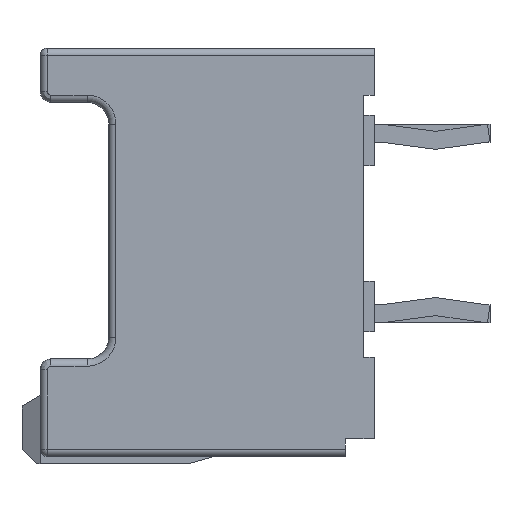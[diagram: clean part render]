
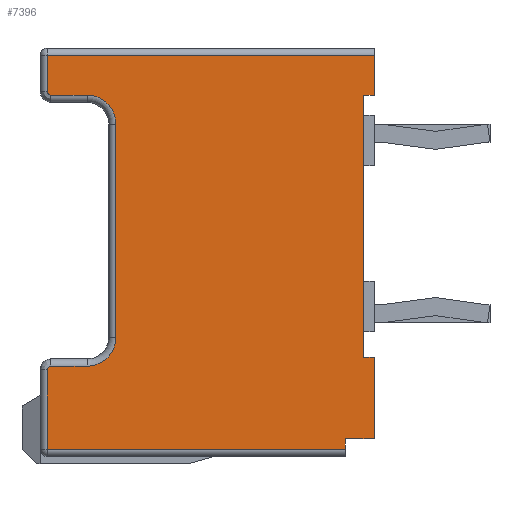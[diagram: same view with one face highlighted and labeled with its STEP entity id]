
A CAD part, left-side view. The second image highlights one B-rep face of the part: STEP entity #7396.
In plain terms, the highlighted planar face has unit normal (-1, 0, 0).
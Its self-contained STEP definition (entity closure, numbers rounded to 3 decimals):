
#1=DIRECTION('',(0.,0.,-1.));
#2=VECTOR('',#1,1.1);
#3=CARTESIAN_POINT('',(-10.7,0.,-0.2));
#4=LINE('',#3,#2);
#5=DIRECTION('',(0.,1.,0.));
#6=VECTOR('',#5,0.3);
#7=CARTESIAN_POINT('',(-10.7,0.,-1.3));
#8=LINE('',#7,#6);
#9=DIRECTION('',(0.,0.,1.));
#10=VECTOR('',#9,7.25);
#11=CARTESIAN_POINT('',(-10.7,0.3,-8.55));
#12=LINE('',#11,#10);
#13=DIRECTION('',(0.,1.,0.));
#14=VECTOR('',#13,0.3);
#15=CARTESIAN_POINT('',(-10.7,0.,-8.55));
#16=LINE('',#15,#14);
#17=DIRECTION('',(0.,0.,-1.));
#18=VECTOR('',#17,2.25);
#19=CARTESIAN_POINT('',(-10.7,0.,-8.55));
#20=LINE('',#19,#18);
#21=DIRECTION('',(0.,1.,0.));
#22=VECTOR('',#21,0.8);
#23=CARTESIAN_POINT('',(-10.7,0.,-10.8));
#24=LINE('',#23,#22);
#25=DIRECTION('',(0.,0.,-1.));
#26=VECTOR('',#25,0.3);
#27=CARTESIAN_POINT('',(-10.7,0.8,-10.8));
#28=LINE('',#27,#26);
#29=DIRECTION('',(0.,0.,-1.));
#30=VECTOR('',#29,1.);
#31=CARTESIAN_POINT('',(-10.7,9.05,-0.2));
#32=LINE('',#31,#30);
#42=CARTESIAN_POINT('',(-10.7,8.95,-1.2));
#43=DIRECTION('',(-1.,0.,0.));
#44=DIRECTION('',(0.,1.,0.));
#45=AXIS2_PLACEMENT_3D('',#42,#43,#44);
#57=DIRECTION('',(0.,-1.,0.));
#58=VECTOR('',#57,1.);
#59=CARTESIAN_POINT('',(-10.7,8.95,-1.3));
#60=LINE('',#59,#58);
#70=CARTESIAN_POINT('',(-10.7,7.95,-2.1));
#71=DIRECTION('',(1.,0.,0.));
#72=DIRECTION('',(0.,0.,1.));
#73=AXIS2_PLACEMENT_3D('',#70,#71,#72);
#85=DIRECTION('',(0.,0.,-1.));
#86=VECTOR('',#85,5.9);
#87=CARTESIAN_POINT('',(-10.7,7.15,-2.1));
#88=LINE('',#87,#86);
#98=CARTESIAN_POINT('',(-10.7,7.95,-8.));
#99=DIRECTION('',(1.,0.,0.));
#100=DIRECTION('',(0.,-1.,0.));
#101=AXIS2_PLACEMENT_3D('',#98,#99,#100);
#113=DIRECTION('',(0.,1.,0.));
#114=VECTOR('',#113,1.);
#115=CARTESIAN_POINT('',(-10.7,7.95,-8.8));
#116=LINE('',#115,#114);
#126=CARTESIAN_POINT('',(-10.7,8.95,-8.9));
#127=DIRECTION('',(-1.,0.,0.));
#128=DIRECTION('',(0.,0.,1.));
#129=AXIS2_PLACEMENT_3D('',#126,#127,#128);
#141=DIRECTION('',(0.,0.,-1.));
#142=VECTOR('',#141,2.2);
#143=CARTESIAN_POINT('',(-10.7,9.05,-8.9));
#144=LINE('',#143,#142);
#159=DIRECTION('',(0.,-1.,0.));
#160=VECTOR('',#159,8.25);
#161=CARTESIAN_POINT('',(-10.7,9.05,-11.1));
#162=LINE('',#161,#160);
#3087=DIRECTION('',(0.,1.,0.));
#3088=VECTOR('',#3087,9.05);
#3089=CARTESIAN_POINT('',(-10.7,0.,-0.2));
#3090=LINE('',#3089,#3088);
#6009=CARTESIAN_POINT('',(-10.7,0.,-8.55));
#6010=CARTESIAN_POINT('',(-10.7,0.3,-8.55));
#6011=VERTEX_POINT('',#6009);
#6012=VERTEX_POINT('',#6010);
#6013=CARTESIAN_POINT('',(-10.7,0.3,-1.3));
#6014=VERTEX_POINT('',#6013);
#6015=CARTESIAN_POINT('',(-10.7,0.,-1.3));
#6016=VERTEX_POINT('',#6015);
#6021=CARTESIAN_POINT('',(-10.7,0.,-10.8));
#6022=VERTEX_POINT('',#6021);
#7041=CARTESIAN_POINT('',(-10.7,9.05,-0.2));
#7042=CARTESIAN_POINT('',(-10.7,9.05,-1.2));
#7043=VERTEX_POINT('',#7041);
#7044=VERTEX_POINT('',#7042);
#7047=CARTESIAN_POINT('',(-10.7,8.95,-1.3));
#7048=VERTEX_POINT('',#7047);
#7051=CARTESIAN_POINT('',(-10.7,7.95,-1.3));
#7052=VERTEX_POINT('',#7051);
#7055=CARTESIAN_POINT('',(-10.7,7.15,-2.1));
#7056=VERTEX_POINT('',#7055);
#7059=CARTESIAN_POINT('',(-10.7,7.15,-8.));
#7060=VERTEX_POINT('',#7059);
#7063=CARTESIAN_POINT('',(-10.7,7.95,-8.8));
#7064=VERTEX_POINT('',#7063);
#7067=CARTESIAN_POINT('',(-10.7,8.95,-8.8));
#7068=VERTEX_POINT('',#7067);
#7071=CARTESIAN_POINT('',(-10.7,9.05,-8.9));
#7072=VERTEX_POINT('',#7071);
#7075=CARTESIAN_POINT('',(-10.7,9.05,-11.1));
#7076=VERTEX_POINT('',#7075);
#7085=CARTESIAN_POINT('',(-10.7,0.8,-11.1));
#7086=VERTEX_POINT('',#7085);
#7089=CARTESIAN_POINT('',(-10.7,0.,-0.2));
#7090=VERTEX_POINT('',#7089);
#7201=CARTESIAN_POINT('',(-10.7,0.8,-10.8));
#7202=VERTEX_POINT('',#7201);
#7353=CARTESIAN_POINT('',(-10.7,0.,0.));
#7354=DIRECTION('',(1.,0.,0.));
#7355=DIRECTION('',(0.,0.,-1.));
#7356=AXIS2_PLACEMENT_3D('',#7353,#7354,#7355);
#7357=PLANE('',#7356);
#7359=ORIENTED_EDGE('',*,*,#7358,.F.);
#7361=ORIENTED_EDGE('',*,*,#7360,.F.);
#7363=ORIENTED_EDGE('',*,*,#7362,.T.);
#7365=ORIENTED_EDGE('',*,*,#7364,.T.);
#7367=ORIENTED_EDGE('',*,*,#7366,.F.);
#7369=ORIENTED_EDGE('',*,*,#7368,.F.);
#7371=ORIENTED_EDGE('',*,*,#7370,.T.);
#7373=ORIENTED_EDGE('',*,*,#7372,.T.);
#7375=ORIENTED_EDGE('',*,*,#7374,.T.);
#7377=ORIENTED_EDGE('',*,*,#7376,.F.);
#7379=ORIENTED_EDGE('',*,*,#7378,.F.);
#7381=ORIENTED_EDGE('',*,*,#7380,.F.);
#7383=ORIENTED_EDGE('',*,*,#7382,.F.);
#7385=ORIENTED_EDGE('',*,*,#7384,.F.);
#7387=ORIENTED_EDGE('',*,*,#7386,.F.);
#7389=ORIENTED_EDGE('',*,*,#7388,.F.);
#7391=ORIENTED_EDGE('',*,*,#7390,.F.);
#7393=ORIENTED_EDGE('',*,*,#7392,.F.);
#7394=EDGE_LOOP('',(#7359,#7361,#7363,#7365,#7367,#7369,#7371,#7373,#7375,#7377,
#7379,#7381,#7383,#7385,#7387,#7389,#7391,#7393));
#7395=FACE_OUTER_BOUND('',#7394,.F.);
#7396=ADVANCED_FACE('',(#7395),#7357,.F.);
#46=CIRCLE('',#45,0.1);
#74=CIRCLE('',#73,0.8);
#102=CIRCLE('',#101,0.8);
#130=CIRCLE('',#129,0.1);
#7358=EDGE_CURVE('',#7043,#7044,#32,.T.);
#7360=EDGE_CURVE('',#7090,#7043,#3090,.T.);
#7362=EDGE_CURVE('',#7090,#6016,#4,.T.);
#7364=EDGE_CURVE('',#6016,#6014,#8,.T.);
#7366=EDGE_CURVE('',#6012,#6014,#12,.T.);
#7368=EDGE_CURVE('',#6011,#6012,#16,.T.);
#7370=EDGE_CURVE('',#6011,#6022,#20,.T.);
#7372=EDGE_CURVE('',#6022,#7202,#24,.T.);
#7374=EDGE_CURVE('',#7202,#7086,#28,.T.);
#7376=EDGE_CURVE('',#7076,#7086,#162,.T.);
#7378=EDGE_CURVE('',#7072,#7076,#144,.T.);
#7380=EDGE_CURVE('',#7068,#7072,#130,.T.);
#7382=EDGE_CURVE('',#7064,#7068,#116,.T.);
#7384=EDGE_CURVE('',#7060,#7064,#102,.T.);
#7386=EDGE_CURVE('',#7056,#7060,#88,.T.);
#7388=EDGE_CURVE('',#7052,#7056,#74,.T.);
#7390=EDGE_CURVE('',#7048,#7052,#60,.T.);
#7392=EDGE_CURVE('',#7044,#7048,#46,.T.);
